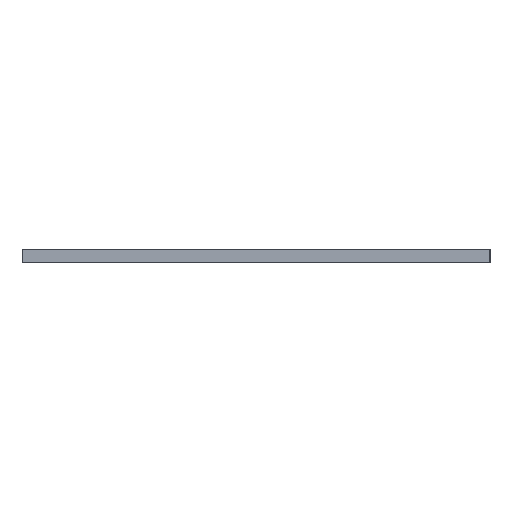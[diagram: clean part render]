
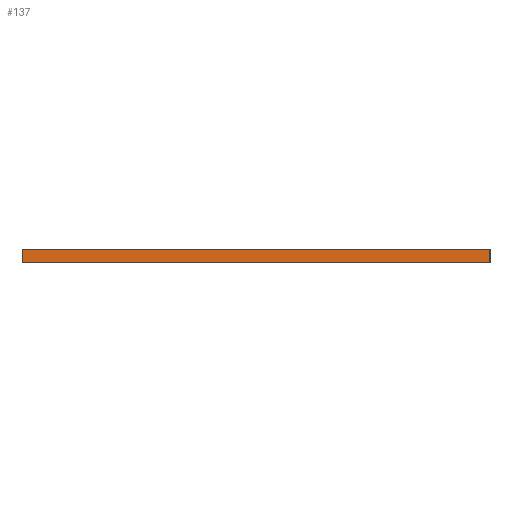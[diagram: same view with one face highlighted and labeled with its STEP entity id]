
A CAD part, left-side view. The second image highlights one B-rep face of the part: STEP entity #137.
In plain terms, the highlighted planar face has unit normal (-1, 0, 0).
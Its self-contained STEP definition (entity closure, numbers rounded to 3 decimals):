
#21 = EDGE_CURVE('',#22,#24,#26,.T.);
#22 = VERTEX_POINT('',#23);
#23 = CARTESIAN_POINT('',(0.,0.,0.));
#24 = VERTEX_POINT('',#25);
#25 = CARTESIAN_POINT('',(0.,0.,18.));
#26 = SURFACE_CURVE('',#27,(#31,#43),.PCURVE_S1.);
#27 = LINE('',#28,#29);
#28 = CARTESIAN_POINT('',(0.,0.,0.));
#29 = VECTOR('',#30,1.);
#30 = DIRECTION('',(0.,0.,1.));
#31 = PCURVE('',#32,#37);
#32 = PLANE('',#33);
#33 = AXIS2_PLACEMENT_3D('',#34,#35,#36);
#34 = CARTESIAN_POINT('',(0.,0.,0.));
#35 = DIRECTION('',(0.,1.,0.));
#36 = DIRECTION('',(1.,0.,0.));
#37 = DEFINITIONAL_REPRESENTATION('',(#38),#42);
#38 = LINE('',#39,#40);
#39 = CARTESIAN_POINT('',(0.,0.));
#40 = VECTOR('',#41,1.);
#41 = DIRECTION('',(0.,-1.));
#42 = ( GEOMETRIC_REPRESENTATION_CONTEXT(2) 
PARAMETRIC_REPRESENTATION_CONTEXT() REPRESENTATION_CONTEXT('2D SPACE',''
  ) );
#43 = PCURVE('',#44,#49);
#44 = PLANE('',#45);
#45 = AXIS2_PLACEMENT_3D('',#46,#47,#48);
#46 = CARTESIAN_POINT('',(0.,633.687,0.));
#47 = DIRECTION('',(1.,0.,-0.));
#48 = DIRECTION('',(0.,-1.,0.));
#49 = DEFINITIONAL_REPRESENTATION('',(#50),#54);
#50 = LINE('',#51,#52);
#51 = CARTESIAN_POINT('',(633.687,0.));
#52 = VECTOR('',#53,1.);
#53 = DIRECTION('',(0.,-1.));
#54 = ( GEOMETRIC_REPRESENTATION_CONTEXT(2) 
PARAMETRIC_REPRESENTATION_CONTEXT() REPRESENTATION_CONTEXT('2D SPACE',''
  ) );
#72 = PLANE('',#73);
#73 = AXIS2_PLACEMENT_3D('',#74,#75,#76);
#74 = CARTESIAN_POINT('',(600.,316.843,18.));
#75 = DIRECTION('',(0.,0.,1.));
#76 = DIRECTION('',(1.,0.,-0.));
#126 = PLANE('',#127);
#127 = AXIS2_PLACEMENT_3D('',#128,#129,#130);
#128 = CARTESIAN_POINT('',(600.,316.843,0.));
#129 = DIRECTION('',(0.,0.,1.));
#130 = DIRECTION('',(1.,0.,-0.));
#137 = ADVANCED_FACE('',(#138),#44,.F.);
#138 = FACE_BOUND('',#139,.F.);
#139 = EDGE_LOOP('',(#140,#170,#191,#192));
#140 = ORIENTED_EDGE('',*,*,#141,.T.);
#141 = EDGE_CURVE('',#142,#144,#146,.T.);
#142 = VERTEX_POINT('',#143);
#143 = CARTESIAN_POINT('',(0.,633.687,0.));
#144 = VERTEX_POINT('',#145);
#145 = CARTESIAN_POINT('',(0.,633.687,18.));
#146 = SURFACE_CURVE('',#147,(#151,#158),.PCURVE_S1.);
#147 = LINE('',#148,#149);
#148 = CARTESIAN_POINT('',(0.,633.687,0.));
#149 = VECTOR('',#150,1.);
#150 = DIRECTION('',(0.,0.,1.));
#151 = PCURVE('',#44,#152);
#152 = DEFINITIONAL_REPRESENTATION('',(#153),#157);
#153 = LINE('',#154,#155);
#154 = CARTESIAN_POINT('',(0.,0.));
#155 = VECTOR('',#156,1.);
#156 = DIRECTION('',(0.,-1.));
#157 = ( GEOMETRIC_REPRESENTATION_CONTEXT(2) 
PARAMETRIC_REPRESENTATION_CONTEXT() REPRESENTATION_CONTEXT('2D SPACE',''
  ) );
#158 = PCURVE('',#159,#164);
#159 = PLANE('',#160);
#160 = AXIS2_PLACEMENT_3D('',#161,#162,#163);
#161 = CARTESIAN_POINT('',(1200.,633.687,0.));
#162 = DIRECTION('',(0.,-1.,0.));
#163 = DIRECTION('',(-1.,0.,0.));
#164 = DEFINITIONAL_REPRESENTATION('',(#165),#169);
#165 = LINE('',#166,#167);
#166 = CARTESIAN_POINT('',(1200.,0.));
#167 = VECTOR('',#168,1.);
#168 = DIRECTION('',(0.,-1.));
#169 = ( GEOMETRIC_REPRESENTATION_CONTEXT(2) 
PARAMETRIC_REPRESENTATION_CONTEXT() REPRESENTATION_CONTEXT('2D SPACE',''
  ) );
#170 = ORIENTED_EDGE('',*,*,#171,.T.);
#171 = EDGE_CURVE('',#144,#24,#172,.T.);
#172 = SURFACE_CURVE('',#173,(#177,#184),.PCURVE_S1.);
#173 = LINE('',#174,#175);
#174 = CARTESIAN_POINT('',(0.,633.687,18.));
#175 = VECTOR('',#176,1.);
#176 = DIRECTION('',(0.,-1.,0.));
#177 = PCURVE('',#44,#178);
#178 = DEFINITIONAL_REPRESENTATION('',(#179),#183);
#179 = LINE('',#180,#181);
#180 = CARTESIAN_POINT('',(0.,-18.));
#181 = VECTOR('',#182,1.);
#182 = DIRECTION('',(1.,0.));
#183 = ( GEOMETRIC_REPRESENTATION_CONTEXT(2) 
PARAMETRIC_REPRESENTATION_CONTEXT() REPRESENTATION_CONTEXT('2D SPACE',''
  ) );
#184 = PCURVE('',#72,#185);
#185 = DEFINITIONAL_REPRESENTATION('',(#186),#190);
#186 = LINE('',#187,#188);
#187 = CARTESIAN_POINT('',(-600.,316.843));
#188 = VECTOR('',#189,1.);
#189 = DIRECTION('',(0.,-1.));
#190 = ( GEOMETRIC_REPRESENTATION_CONTEXT(2) 
PARAMETRIC_REPRESENTATION_CONTEXT() REPRESENTATION_CONTEXT('2D SPACE',''
  ) );
#191 = ORIENTED_EDGE('',*,*,#21,.F.);
#192 = ORIENTED_EDGE('',*,*,#193,.F.);
#193 = EDGE_CURVE('',#142,#22,#194,.T.);
#194 = SURFACE_CURVE('',#195,(#199,#206),.PCURVE_S1.);
#195 = LINE('',#196,#197);
#196 = CARTESIAN_POINT('',(0.,633.687,0.));
#197 = VECTOR('',#198,1.);
#198 = DIRECTION('',(0.,-1.,0.));
#199 = PCURVE('',#44,#200);
#200 = DEFINITIONAL_REPRESENTATION('',(#201),#205);
#201 = LINE('',#202,#203);
#202 = CARTESIAN_POINT('',(0.,0.));
#203 = VECTOR('',#204,1.);
#204 = DIRECTION('',(1.,0.));
#205 = ( GEOMETRIC_REPRESENTATION_CONTEXT(2) 
PARAMETRIC_REPRESENTATION_CONTEXT() REPRESENTATION_CONTEXT('2D SPACE',''
  ) );
#206 = PCURVE('',#126,#207);
#207 = DEFINITIONAL_REPRESENTATION('',(#208),#212);
#208 = LINE('',#209,#210);
#209 = CARTESIAN_POINT('',(-600.,316.843));
#210 = VECTOR('',#211,1.);
#211 = DIRECTION('',(0.,-1.));
#212 = ( GEOMETRIC_REPRESENTATION_CONTEXT(2) 
PARAMETRIC_REPRESENTATION_CONTEXT() REPRESENTATION_CONTEXT('2D SPACE',''
  ) );
